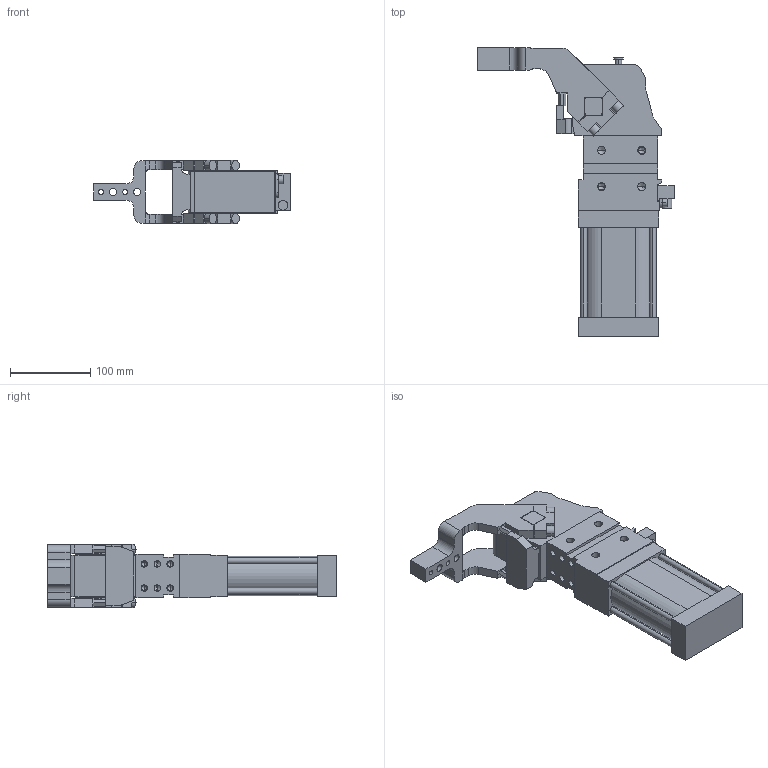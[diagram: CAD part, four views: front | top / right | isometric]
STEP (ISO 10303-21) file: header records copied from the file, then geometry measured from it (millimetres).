
FILE_DESCRIPTION (( 'STEP AP214' ), '1' );
FILE_NAME ('cpl63tv3ci1g_135.STEP', '2023-01-26T12:58:08', ( '' ), ( '' ), 'SwSTEP 2.0', 'SolidWorks 2022', '' );
FILE_SCHEMA (( 'AUTOMOTIVE_DESIGN' ));
Length unit declared in the file: millimetre
Products named in the file (4): meccanica_cpl_63_tassello_esterno; blocchetto_VEP_0; leva_v3c_cpl63t; cpl63tv3ci1g_135
Assembly tree (3 placements, depth 2):
  cpl63tv3ci1g_135
    meccanica_cpl_63_tassello_esterno
    blocchetto_VEP_0
    leva_v3c_cpl63t
Bounding box: 244.5 x 359.5 x 79 mm (x, y, z)
Volume: 1830330.3 mm3; surface area: 199502.5 mm2
Topology: 3 solids, 3 shells, 431 faces, 1136 edges, 705 vertices
Faces by surface type: plane 231, cylinder 150, cone 50
Entity records: 14552 total; most frequent: CARTESIAN_POINT 2308, DIRECTION 2290, ORIENTED_EDGE 2180, EDGE_CURVE 1090, AXIS2_PLACEMENT_3D 769, VECTOR 752, LINE 752, VERTEX_POINT 705
